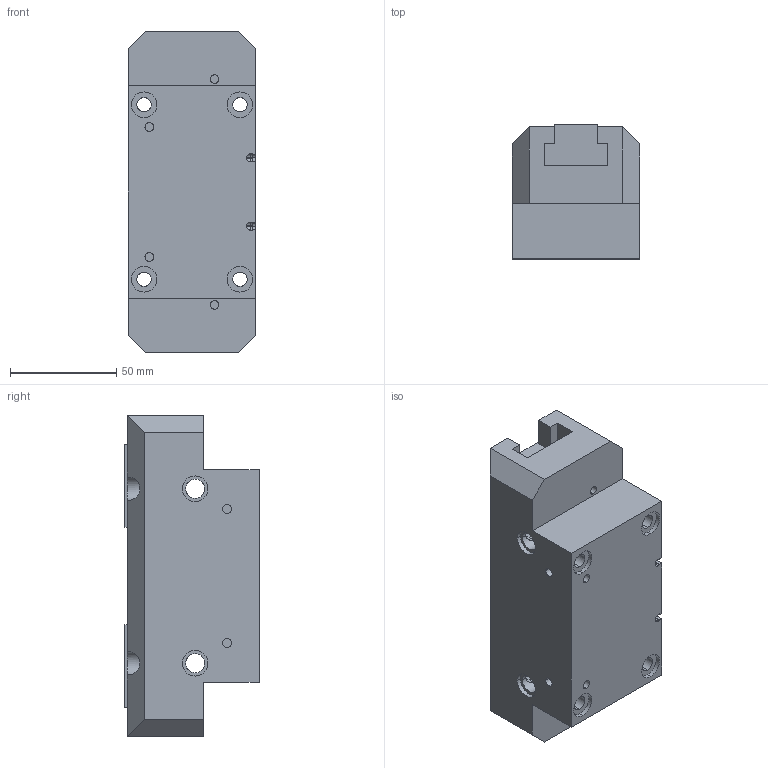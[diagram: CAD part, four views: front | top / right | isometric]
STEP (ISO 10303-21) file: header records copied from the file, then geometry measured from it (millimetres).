
FILE_DESCRIPTION (( 'STEP AP203' ), '1' );
FILE_NAME ('dh5526.STEP', '2011-08-03T08:59:51', ( 'Stefano' ), ( 'Gimatic' ), 'SwSTEP 2.0', 'SolidWorks 2010', '' );
FILE_SCHEMA (( 'CONFIG_CONTROL_DESIGN' ));
Length unit declared in the file: millimetre
Products named in the file (3): dh55_griffa; dh55_corpo; dh5526
Assembly tree (3 placements, depth 2):
  dh5526
    dh55_griffa  x2
    dh55_corpo
Bounding box: 60 x 63 x 151 mm (x, y, z)
Volume: 425651.1 mm3; surface area: 72518.4 mm2
Topology: 3 solids, 3 shells, 192 faces, 504 edges, 320 vertices
Faces by surface type: cylinder 90, plane 90, cone 8, sphere 4
Entity records: 5951 total; most frequent: CARTESIAN_POINT 1452, DIRECTION 878, ORIENTED_EDGE 868, EDGE_CURVE 434, AXIS2_PLACEMENT_3D 316, VERTEX_POINT 282, LINE 246, VECTOR 246
